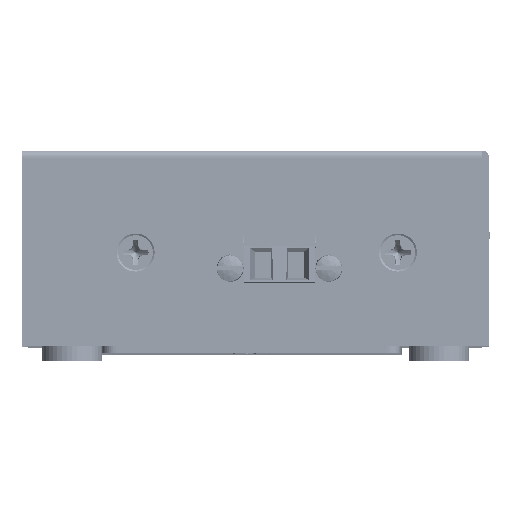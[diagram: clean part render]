
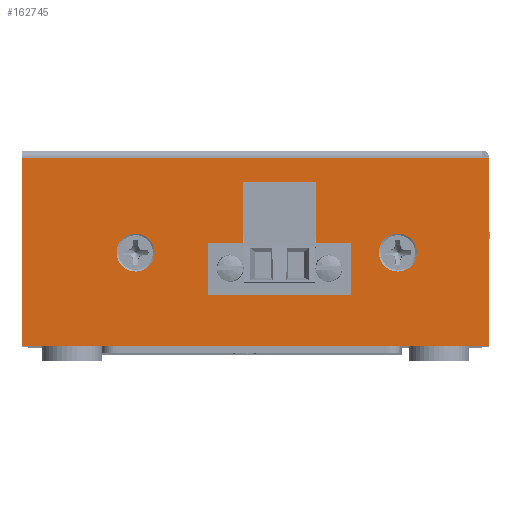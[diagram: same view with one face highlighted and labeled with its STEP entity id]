
A CAD part, top view. The second image highlights one B-rep face of the part: STEP entity #162745.
In plain terms, the highlighted planar face has unit normal (0, 0, 1).
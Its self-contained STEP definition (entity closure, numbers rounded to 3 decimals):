
#2480=FACE_BOUND('',#23398,.T.);
#2481=FACE_BOUND('',#23399,.T.);
#2482=FACE_BOUND('',#23400,.T.);
#5173=PLANE('',#174393);
#14435=FACE_OUTER_BOUND('',#23397,.T.);
#23397=EDGE_LOOP('',(#130546,#130547,#130548,#130549,#130550));
#23398=EDGE_LOOP('',(#130551));
#23399=EDGE_LOOP('',(#130552));
#23400=EDGE_LOOP('',(#130553,#130554,#130555,#130556,#130557,#130558,#130559,
#130560));
#36946=LINE('',#260162,#56130);
#36954=LINE('',#260178,#56138);
#36957=LINE('',#260187,#56141);
#36961=LINE('',#260195,#56145);
#36964=LINE('',#260201,#56148);
#36969=LINE('',#260212,#56153);
#36973=LINE('',#260221,#56157);
#37024=LINE('',#260376,#56208);
#37027=LINE('',#260383,#56211);
#37039=LINE('',#260413,#56223);
#37049=LINE('',#260432,#56233);
#37051=LINE('',#260436,#56235);
#37052=LINE('',#260437,#56236);
#56130=VECTOR('',#200471,10.);
#56138=VECTOR('',#200483,10.);
#56141=VECTOR('',#200490,10.);
#56145=VECTOR('',#200496,10.);
#56148=VECTOR('',#200501,10.);
#56153=VECTOR('',#200508,10.);
#56157=VECTOR('',#200516,10.);
#56208=VECTOR('',#200643,10.);
#56211=VECTOR('',#200650,10.);
#56223=VECTOR('',#200688,0.365);
#56233=VECTOR('',#200706,10.);
#56235=VECTOR('',#200712,10.);
#56236=VECTOR('',#200713,10.);
#68628=CIRCLE('',#174322,2.75);
#68629=CIRCLE('',#174324,2.75);
#77451=VERTEX_POINT('',#260150);
#77452=VERTEX_POINT('',#260154);
#77454=VERTEX_POINT('',#260159);
#77455=VERTEX_POINT('',#260161);
#77460=VERTEX_POINT('',#260175);
#77461=VERTEX_POINT('',#260177);
#77464=VERTEX_POINT('',#260185);
#77465=VERTEX_POINT('',#260186);
#77468=VERTEX_POINT('',#260194);
#77470=VERTEX_POINT('',#260200);
#77474=VERTEX_POINT('',#260209);
#77475=VERTEX_POINT('',#260211);
#77507=VERTEX_POINT('',#260370);
#77510=VERTEX_POINT('',#260381);
#77515=VERTEX_POINT('',#260411);
#96595=EDGE_CURVE('',#77451,#77451,#68628,.T.);
#96597=EDGE_CURVE('',#77452,#77452,#68629,.T.);
#96600=EDGE_CURVE('',#77454,#77455,#36946,.T.);
#96608=EDGE_CURVE('',#77461,#77460,#36954,.T.);
#96612=EDGE_CURVE('',#77464,#77465,#36957,.T.);
#96616=EDGE_CURVE('',#77468,#77464,#36961,.T.);
#96619=EDGE_CURVE('',#77470,#77468,#36964,.T.);
#96624=EDGE_CURVE('',#77475,#77474,#36969,.T.);
#96629=EDGE_CURVE('',#77460,#77475,#36973,.T.);
#96691=EDGE_CURVE('',#77454,#77507,#37024,.T.);
#96695=EDGE_CURVE('',#77507,#77510,#37027,.T.);
#96711=EDGE_CURVE('',#77510,#77515,#37039,.T.);
#96722=EDGE_CURVE('',#77515,#77455,#37049,.T.);
#96724=EDGE_CURVE('',#77474,#77470,#37051,.T.);
#96725=EDGE_CURVE('',#77465,#77461,#37052,.T.);
#130546=ORIENTED_EDGE('',*,*,#96691,.T.);
#130547=ORIENTED_EDGE('',*,*,#96695,.T.);
#130548=ORIENTED_EDGE('',*,*,#96711,.T.);
#130549=ORIENTED_EDGE('',*,*,#96722,.T.);
#130550=ORIENTED_EDGE('',*,*,#96600,.F.);
#130551=ORIENTED_EDGE('',*,*,#96595,.T.);
#130552=ORIENTED_EDGE('',*,*,#96597,.T.);
#130553=ORIENTED_EDGE('',*,*,#96608,.T.);
#130554=ORIENTED_EDGE('',*,*,#96629,.T.);
#130555=ORIENTED_EDGE('',*,*,#96624,.T.);
#130556=ORIENTED_EDGE('',*,*,#96724,.T.);
#130557=ORIENTED_EDGE('',*,*,#96619,.T.);
#130558=ORIENTED_EDGE('',*,*,#96616,.T.);
#130559=ORIENTED_EDGE('',*,*,#96612,.T.);
#130560=ORIENTED_EDGE('',*,*,#96725,.T.);
#162745=ADVANCED_FACE('',(#14435,#2480,#2481,#2482),#5173,.T.);
#174322=AXIS2_PLACEMENT_3D('',#260151,#200460,#200461);
#174324=AXIS2_PLACEMENT_3D('',#260155,#200465,#200466);
#174393=AXIS2_PLACEMENT_3D('',#260435,#200710,#200711);
#200460=DIRECTION('center_axis',(0.,0.,-1.));
#200461=DIRECTION('ref_axis',(1.,0.,0.));
#200465=DIRECTION('center_axis',(0.,0.,-1.));
#200466=DIRECTION('ref_axis',(1.,0.,0.));
#200471=DIRECTION('',(0.,-1.,0.));
#200483=DIRECTION('',(0.,1.,0.));
#200490=DIRECTION('',(0.,1.,0.));
#200496=DIRECTION('',(-1.,0.,0.));
#200501=DIRECTION('',(0.,-1.,0.));
#200508=DIRECTION('',(0.,-1.,0.));
#200516=DIRECTION('',(1.,0.,0.));
#200643=DIRECTION('',(-1.,0.,0.));
#200650=DIRECTION('',(-1.,0.,0.));
#200688=DIRECTION('',(0.,-1.,0.));
#200706=DIRECTION('',(1.,0.,0.));
#200710=DIRECTION('center_axis',(0.,0.,1.));
#200711=DIRECTION('ref_axis',(0.,-1.,0.));
#200712=DIRECTION('',(1.,0.,0.));
#200713=DIRECTION('',(1.,0.,0.));
#260150=CARTESIAN_POINT('',(49.295,7.52,3.585));
#260151=CARTESIAN_POINT('Origin',(52.045,7.52,3.585));
#260154=CARTESIAN_POINT('',(11.425,7.52,3.585));
#260155=CARTESIAN_POINT('Origin',(14.175,7.52,3.585));
#260159=CARTESIAN_POINT('',(65.225,21.24,3.585));
#260161=CARTESIAN_POINT('',(65.225,-5.95,3.585));
#260162=CARTESIAN_POINT('',(65.225,21.24,3.585));
#260175=CARTESIAN_POINT('',(29.7,17.75,3.585));
#260177=CARTESIAN_POINT('',(29.7,8.87,3.585));
#260178=CARTESIAN_POINT('',(29.7,8.401,3.585));
#260185=CARTESIAN_POINT('',(24.575,1.37,3.585));
#260186=CARTESIAN_POINT('',(24.575,8.87,3.585));
#260187=CARTESIAN_POINT('',(24.575,4.651,3.585));
#260194=CARTESIAN_POINT('',(45.275,1.37,3.585));
#260195=CARTESIAN_POINT('',(38.138,1.37,3.585));
#260200=CARTESIAN_POINT('',(45.275,8.87,3.585));
#260201=CARTESIAN_POINT('',(45.275,8.401,3.585));
#260209=CARTESIAN_POINT('',(40.15,8.87,3.585));
#260211=CARTESIAN_POINT('',(40.15,17.75,3.585));
#260212=CARTESIAN_POINT('',(40.15,12.841,3.585));
#260221=CARTESIAN_POINT('',(30.35,17.75,3.585));
#260370=CARTESIAN_POINT('',(64.215,21.24,3.585));
#260376=CARTESIAN_POINT('',(31.,21.24,3.585));
#260381=CARTESIAN_POINT('',(-2.225,21.24,3.585));
#260383=CARTESIAN_POINT('',(31.,21.24,3.585));
#260411=CARTESIAN_POINT('',(-2.225,-5.95,3.585));
#260413=CARTESIAN_POINT('',(-2.225,22.387,3.585));
#260432=CARTESIAN_POINT('',(64.225,-5.95,3.585));
#260435=CARTESIAN_POINT('Origin',(31.,7.932,3.585));
#260436=CARTESIAN_POINT('',(35.575,8.87,3.585));
#260437=CARTESIAN_POINT('',(27.788,8.87,3.585));
